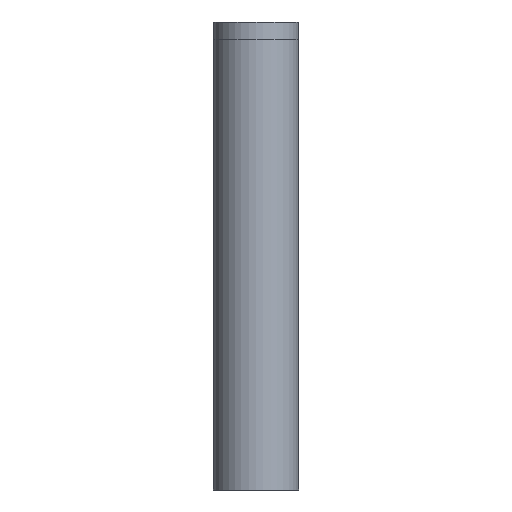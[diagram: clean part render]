
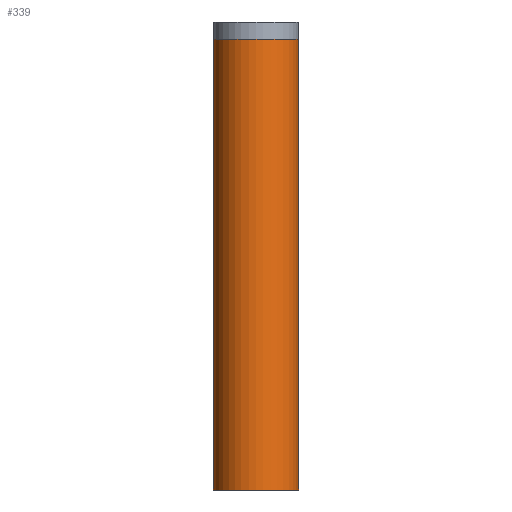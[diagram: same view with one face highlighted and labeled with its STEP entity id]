
A CAD part, left-side view. The second image highlights one B-rep face of the part: STEP entity #339.
In plain terms, the highlighted cylindrical face has radius 10 mm (diameter 20 mm), a partial arc.
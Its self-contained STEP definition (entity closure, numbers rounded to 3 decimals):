
#258 = VERTEX_POINT('',#259);
#259 = CARTESIAN_POINT('',(-180.,0.,106.));
#265 = EDGE_CURVE('',#258,#266,#268,.T.);
#266 = VERTEX_POINT('',#267);
#267 = CARTESIAN_POINT('',(-180.,-20.,106.));
#268 = CIRCLE('',#269,10.);
#269 = AXIS2_PLACEMENT_3D('',#270,#271,#272);
#270 = CARTESIAN_POINT('',(-180.,-10.,106.));
#271 = DIRECTION('',(0.,0.,1.));
#272 = DIRECTION('',(1.,0.,-0.));
#322 = VERTEX_POINT('',#323);
#323 = CARTESIAN_POINT('',(-180.,0.,0.
    ));
#329 = EDGE_CURVE('',#322,#258,#330,.T.);
#330 = LINE('',#331,#332);
#331 = CARTESIAN_POINT('',(-180.,0.,106.));
#332 = VECTOR('',#333,1.);
#333 = DIRECTION('',(0.,0.,1.));
#339 = ADVANCED_FACE('',(#340),#359,.T.);
#340 = FACE_BOUND('',#341,.T.);
#341 = EDGE_LOOP('',(#342,#343,#344,#353));
#342 = ORIENTED_EDGE('',*,*,#265,.F.);
#343 = ORIENTED_EDGE('',*,*,#329,.F.);
#344 = ORIENTED_EDGE('',*,*,#345,.F.);
#345 = EDGE_CURVE('',#346,#322,#348,.T.);
#346 = VERTEX_POINT('',#347);
#347 = CARTESIAN_POINT('',(-180.,-20.,0.));
#348 = CIRCLE('',#349,10.);
#349 = AXIS2_PLACEMENT_3D('',#350,#351,#352);
#350 = CARTESIAN_POINT('',(-180.,-10.,0.));
#351 = DIRECTION('',(0.,0.,-1.));
#352 = DIRECTION('',(1.,0.,0.));
#353 = ORIENTED_EDGE('',*,*,#354,.T.);
#354 = EDGE_CURVE('',#346,#266,#355,.T.);
#355 = LINE('',#356,#357);
#356 = CARTESIAN_POINT('',(-180.,-20.,106.));
#357 = VECTOR('',#358,1.);
#358 = DIRECTION('',(0.,0.,1.));
#359 = CYLINDRICAL_SURFACE('',#360,10.);
#360 = AXIS2_PLACEMENT_3D('',#361,#362,#363);
#361 = CARTESIAN_POINT('',(-180.,-10.,0.));
#362 = DIRECTION('',(0.,0.,1.));
#363 = DIRECTION('',(-1.,0.,0.));
